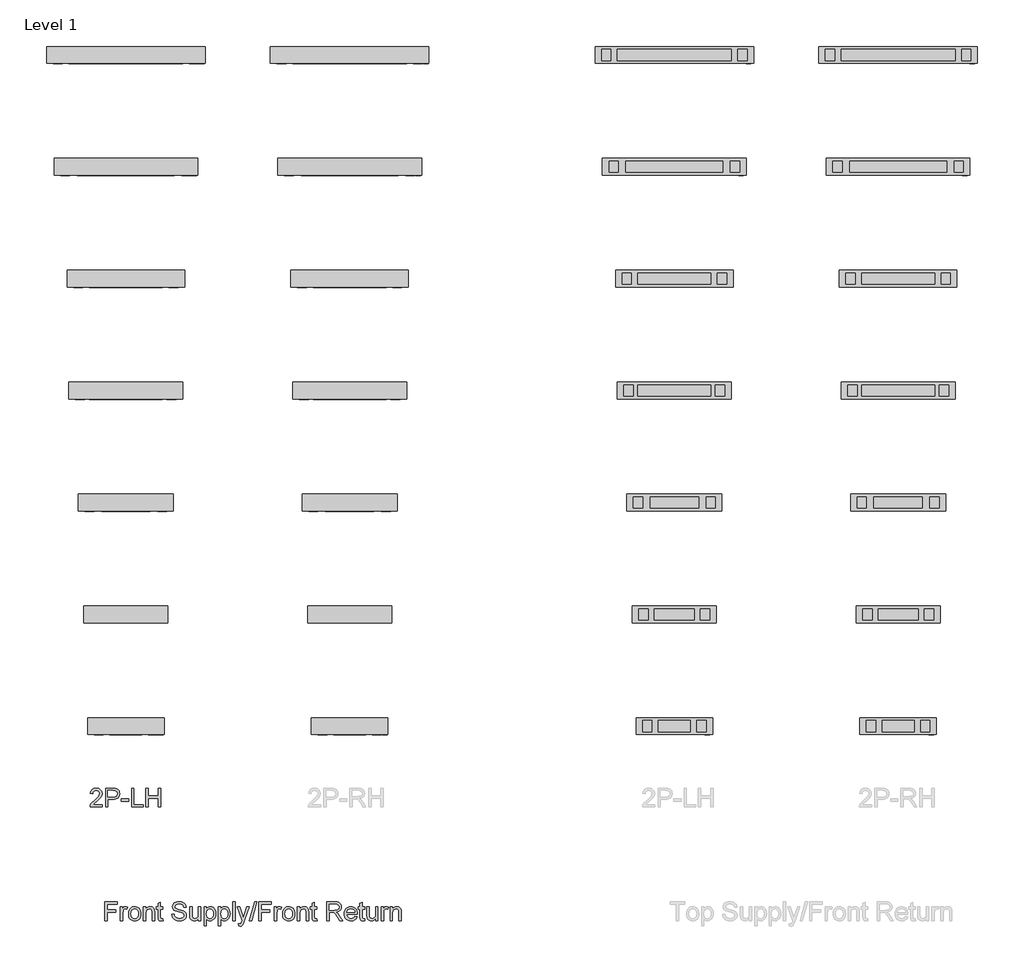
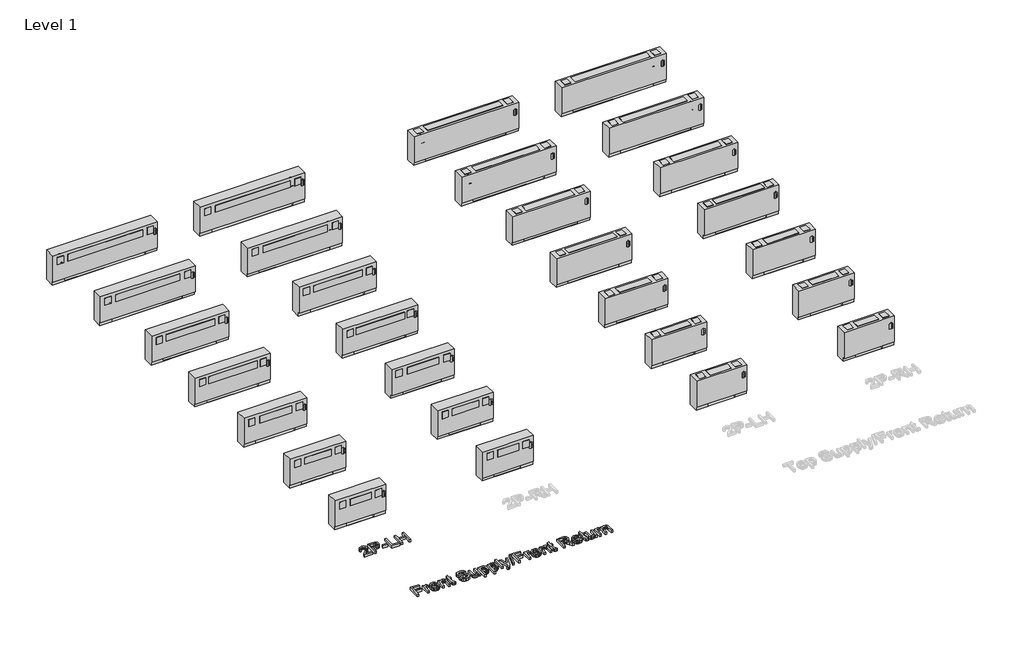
# One storey, part 1 of 2: 30 proxies.
"""IFC4 building model written with IfcOpenShell, lengths in millimetres."""

from ifc_helpers import new_model, si_unit, origin, origin_with_axes, place, context, project, spatial, polyline, outline, extrude, transform, mapped, element, save
from components import gxy_02_a3ff833b, gxy_02_ee521cdb, gxy_02_d8011f0c, gxy_02_15e2bdc2, gxy_03_f8413b3b, gxy_03_310a4355, gxy_03_8c3c5e44, gxy_03_0d3e7284, gxy_04_c9e6a3fd, gxy_04_255bc4dc, gxy_04_f155bc42, gxy_04_35a2ad64, gxy_06_de5f520c, gxy_06_4bfbfc61, gxy_06_0ddcebba, gxy_06_690fa94a, gxy_08_44ee7bc8, gxy_08_8e0e8857, gxy_08_aae87ed6, gxy_08_80e307a5, gxy_10_e6496b14, gxy_10_41770ce1, gxy_10_d176e5a6, gxy_10_b46815d9, gxy_12_1a190441, gxy_12_dbbb1e86, gxy_12_26e10efb, gxy_12_f87acff0

model = new_model("IFC4")

# Units and contexts
model_context = context("Model", 3, world=origin())
ifc_project = project(units=[si_unit("LENGTHUNIT", "METRE", prefix="MILLI")], contexts=[model_context])

# Site, building, storey
site = spatial("IfcSite", under=ifc_project)
building = spatial("IfcBuilding", under=site)
storey = spatial("IfcBuildingStorey", under=building, Name="Level 1", Elevation=0.0)

# Proxies
placement = place(None, origin())
element("IfcBuildingElementProxy", 1, Name="24\" Arial", ObjectType="24\" Arial", at=placement, inside=storey, context=model_context, shape_type="SweptSolid", body=[
    extrude(outline(polyline([(-19722.253563, -2284.938898), (-19722.253563, -2316.8337764), (-19889.701675, -2316.8337764), (-19886.2754673, -2294.8437528), (-19878.4107634, -2277.6582067), (-19866.9018205, -2260.9865918), (-19826.9709277, -2224.0146965), (-19792.5531145, -2193.4435801), (-19771.9024266, -2170.8773306), (-19761.5770826, -2152.5626934), (-19758.1353013, -2134.7464136), (-19761.3824117, -2118.7756138), (-19771.123743, -2105.4990592), (-19786.0978278, -2096.5519851), (-19805.0431987, -2093.5696271), (-19824.9385636, -2096.4819036), (-19840.3954322, -2105.2187331), (-19850.3703686, -2119.0948741), (-19853.8199367, -2137.425085), (-19885.7148152, -2133.4382252), (-19877.9824875, -2102.5867827), (-19861.2641515, -2080.0516806), (-19836.4319329, -2066.2689816), (-19804.3579572, -2061.6747487), (-19772.0503764, -2066.7829128), (-19747.2648788, -2082.1074052), (-19731.4965368, -2105.0007017), (-19726.2404228, -2132.8152784), (-19731.9092391, -2163.0593477), (-19750.7533812, -2194.3312793), (-19796.4465323, -2238.0310005), (-19833.1381014, -2268.7111326), (-19847.5281736, -2284.938898), (-19722.253563, -2284.938898)])), origin_with_axes(), (0.0, 0.0, 1.0), 50.8),
    extrude(outline(polyline([(-19678.3981051, -2316.8337764), (-19678.3981051, -2061.6747487), (-19583.834774, -2061.6747487), (-19545.7104271, -2064.1042414), (-19528.7117651, -2068.6439665), (-19514.7188215, -2076.0336734), (-19503.4512705, -2086.6081961), (-19494.6287858, -2100.7023685), (-19488.9288222, -2117.3272624), (-19487.0288343, -2135.4939498), (-19492.1603589, -2165.5667088), (-19507.5549328, -2190.6247456), (-19519.8834402, -2200.4906663), (-19536.3428639, -2207.5377525), (-19556.9332038, -2211.7660042), (-19581.6544601, -2213.1754214), (-19646.5032266, -2213.1754214), (-19646.5032266, -2316.8337764), (-19678.3981051, -2316.8337764)]), holes=[polyline([(-19646.5032266, -2181.2805429), (-19579.7856195, -2181.2805429), (-19551.5038327, -2178.3526928), (-19532.8154274, -2169.5691422), (-19522.3966414, -2155.4749699), (-19518.9237127, -2136.6152541), (-19520.9716505, -2122.2874767), (-19527.1154638, -2110.2023079), (-19536.5920426, -2101.107284), (-19548.6382773, -2095.7499411), (-19580.5331557, -2093.5696271), (-19646.5032266, -2093.5696271), (-19646.5032266, -2181.2805429)])]), origin_with_axes(), (0.0, 0.0, 1.0), 50.8),
    extrude(outline(polyline([(-19463.1076754, -2241.0834401), (-19463.1076754, -2209.1885616), (-19363.4361802, -2209.1885616), (-19363.4361802, -2241.0834401), (-19463.1076754, -2241.0834401)])), origin_with_axes(), (0.0, 0.0, 1.0), 50.8),
    extrude(outline(polyline([(-19323.5675821, -2316.8337764), (-19323.5675821, -2061.6747487), (-19291.6727036, -2061.6747487), (-19291.6727036, -2284.938898), (-19164.0931897, -2284.938898), (-19164.0931897, -2316.8337764), (-19323.5675821, -2316.8337764)])), origin_with_axes(), (0.0, 0.0, 1.0), 50.8),
    extrude(outline(polyline([(-19128.2114515, -2316.8337764), (-19128.2114515, -2061.6747487), (-19096.316573, -2061.6747487), (-19096.316573, -2165.3331037), (-18960.7633395, -2165.3331037), (-18960.7633395, -2061.6747487), (-18928.868461, -2061.6747487), (-18928.868461, -2316.8337764), (-18960.7633395, -2316.8337764), (-18960.7633395, -2197.2279822), (-19096.316573, -2197.2279822), (-19096.316573, -2316.8337764), (-19128.2114515, -2316.8337764)])), origin_with_axes(), (0.0, 0.0, 1.0), 50.8),
])
element("IfcBuildingElementProxy", 2, Name="24\" Arial", ObjectType="24\" Arial", at=placement, inside=storey, context=model_context, shape_type="SweptSolid", body=[
    extrude(outline(polyline([(-19688.2981561, -3865.3936295), (-19688.2981561, -3610.2346017), (-19516.8631843, -3610.2346017), (-19516.8631843, -3642.1294801), (-19656.4032777, -3642.1294801), (-19656.4032777, -3717.8798165), (-19536.7974834, -3717.8798165), (-19536.7974834, -3749.774695), (-19656.4032777, -3749.774695), (-19656.4032777, -3865.3936295), (-19688.2981561, -3865.3936295)])), origin_with_axes(), (0.0, 0.0, 1.0), 50.8),
    extrude(outline(polyline([(-19476.9945863, -3865.3936295), (-19476.9945863, -3678.0112184), (-19449.0865676, -3678.0112184), (-19449.0865676, -3705.732353), (-19438.7767973, -3689.6603244), (-19429.2768579, -3680.1915324), (-19419.7457712, -3675.5661521), (-19409.3425589, -3674.0243586), (-19393.4574143, -3676.4849987), (-19377.323091, -3683.8669188), (-19387.9754821, -3712.460179), (-19410.4015685, -3705.9192371), (-19419.9248684, -3707.4921779), (-19428.4358797, -3712.2110002), (-19435.3116555, -3719.7175097), (-19439.929249, -3729.6535119), (-19445.0997078, -3766.9057332), (-19445.0997078, -3865.3936295), (-19476.9945863, -3865.3936295)])), origin_with_axes(), (0.0, 0.0, 1.0), 50.8),
    extrude(outline(polyline([(-19365.3625116, -3771.7024239), (-19363.6377275, -3747.4347509), (-19358.4633753, -3726.523204), (-19349.8394549, -3708.9677832), (-19337.7659664, -3694.7684886), (-19312.1939984, -3679.2103911), (-19281.5761609, -3674.0243586), (-19263.9798593, -3675.6031395), (-19248.0694075, -3680.3394823), (-19233.8448056, -3688.2333868), (-19221.3060537, -3699.2848532), (-19211.072205, -3713.1201133), (-19203.7623131, -3729.365399), (-19199.376378, -3748.0207103), (-19197.9143996, -3769.0860472), (-19200.499629, -3801.3079728), (-19208.2553172, -3825.8365048), (-19220.9556461, -3844.2056499), (-19238.3747972, -3857.9494147), (-19259.0644193, -3866.5227206), (-19281.5761609, -3869.3804893), (-19299.4294282, -3867.8075485), (-19315.4878298, -3863.0887261), (-19329.7513659, -3855.2240222), (-19342.2200363, -3844.2134367), (-19352.3448692, -3830.2438537), (-19359.5768928, -3813.5021573), (-19363.9161069, -3793.9883473), (-19365.3625116, -3771.7024239)]), holes=[polyline([(-19333.4676331, -3771.6401293), (-19329.7766731, -3800.5059287), (-19318.7037929, -3821.0709614), (-19302.0399648, -3833.3819484), (-19281.5761609, -3837.4856108), (-19261.2057991, -3833.3585879), (-19244.5731183, -3820.9775194), (-19233.5002381, -3800.1399474), (-19229.8092781, -3770.6434143), (-19233.5235987, -3742.6185931), (-19244.6665603, -3722.3338865), (-19261.3226016, -3710.0228994), (-19281.5761609, -3705.9192371), (-19302.0399648, -3710.0073258), (-19318.7037929, -3722.2715918), (-19329.7766731, -3742.7899035), (-19333.4676331, -3771.6401293)])]), origin_with_axes(), (0.0, 0.0, 1.0), 50.8),
    extrude(outline(polyline([(-19162.0326613, -3865.3936295), (-19162.0326613, -3678.0112184), (-19130.1377829, -3678.0112184), (-19130.1377829, -3704.1749859), (-19119.0571159, -3690.9840865), (-19105.7494139, -3681.5620154), (-19090.2146769, -3675.9087728), (-19072.452905, -3674.0243586), (-19056.731284, -3675.5427916), (-19042.333425, -3680.0980904), (-19030.3261246, -3687.121816), (-19021.7761791, -3696.0455296), (-19012.2139451, -3719.4994783), (-19010.5319886, -3750.3353472), (-19010.5319886, -3865.3936295), (-19042.4268671, -3865.3936295), (-19042.4268671, -3754.6336804), (-19046.1022535, -3726.4141883), (-19051.1870571, -3718.0121927), (-19059.0906952, -3711.4946114), (-19080.9872768, -3705.9192371), (-19099.6678953, -3709.049545), (-19115.591974, -3718.4404687), (-19126.5013307, -3736.5837955), (-19130.1377829, -3765.971313), (-19130.1377829, -3865.3936295), (-19162.0326613, -3865.3936295)])), origin_with_axes(), (0.0, 0.0, 1.0), 50.8),
    extrude(outline(polyline([(-18898.8999139, -3838.7937992), (-18894.9130541, -3866.3280497), (-18918.7719183, -3869.3804893), (-18934.080837, -3868.0567272), (-18945.496338, -3864.0854411), (-18958.8274004, -3850.1937264), (-18962.6896709, -3814.0005147), (-18962.6896709, -3709.9060969), (-18986.6108297, -3709.9060969), (-18986.6108297, -3678.0112184), (-18962.6896709, -3678.0112184), (-18962.6896709, -3632.473804), (-18930.7947924, -3613.723104), (-18930.7947924, -3678.0112184), (-18898.8999139, -3678.0112184), (-18898.8999139, -3709.9060969), (-18930.7947924, -3709.9060969), (-18930.7947924, -3813.0660945), (-18929.1128359, -3829.5118912), (-18923.662051, -3835.3364442), (-18912.7916286, -3837.4856108), (-18898.8999139, -3838.7937992)])), origin_with_axes(), (0.0, 0.0, 1.0), 50.8),
    extrude(outline(polyline([(-18775.3072599, -3777.6827137), (-18743.4123814, -3777.6827137), (-18739.7525687, -3795.3821909), (-18733.1337584, -3809.6087395), (-18722.8084145, -3820.899651), (-18708.0290006, -3829.7922173), (-18689.9635421, -3835.5622624), (-18669.7800643, -3837.4856108), (-18652.0105055, -3836.0294725), (-18636.4524081, -3831.6610578), (-18623.8455213, -3824.7463478), (-18614.9295946, -3815.6513239), (-18609.6267595, -3805.2091774), (-18607.8591479, -3794.2530997), (-18613.1541961, -3774.349948), (-18621.2213577, -3766.4774573), (-18634.8327463, -3759.8664339), (-18681.2734336, -3747.6878231), (-18731.2649179, -3731.9584152), (-18747.1422756, -3721.2281558), (-18758.394253, -3708.2241404), (-18765.0987184, -3693.2266951), (-18767.3335402, -3676.516146), (-18764.5692136, -3657.8355275), (-18756.2762337, -3640.4163763), (-18742.672632, -3625.6525361), (-18723.9764398, -3614.9378504), (-18701.5347797, -3608.420269), (-18676.6947743, -3606.2477419), (-18649.7834706, -3608.5214978), (-18626.2360798, -3615.3427658), (-18606.8935803, -3626.5713827), (-18592.5969502, -3642.0671855), (-18583.5486472, -3660.8646065), (-18579.9511292, -3681.9980782), (-18611.8460077, -3681.9980782), (-18617.701708, -3662.9670521), (-18629.9114662, -3649.2310742), (-18648.9892133, -3640.9147338), (-18675.4488806, -3638.1426203), (-18702.5314947, -3640.8835865), (-18721.1108843, -3649.1064848), (-18731.8567174, -3661.2072273), (-18735.4386618, -3675.5817257), (-18732.9001534, -3687.8382049), (-18725.2846282, -3697.6963387), (-18707.2814644, -3706.5110366), (-18673.2062719, -3715.5126185), (-18616.7672878, -3731.5223524), (-18598.5850267, -3743.0935901), (-18585.9002716, -3757.3746465), (-18578.4482699, -3774.209785), (-18575.9642694, -3793.4432688), (-18578.8220381, -3813.1050286), (-18587.395344, -3831.5987631), (-18601.3337797, -3847.515055), (-18620.2869374, -3859.4444871), (-18643.0790051, -3866.8964887), (-18668.5341706, -3869.3804893), (-18699.7827417, -3866.7018178), (-18725.5026596, -3858.6658035), (-18745.989824, -3845.241299), (-18761.5401346, -3826.3971569), (-18771.5228578, -3803.4415657), (-18775.3072599, -3777.6827137)])), origin_with_axes(), (0.0, 0.0, 1.0), 50.8),
    extrude(outline(polyline([(-18412.5030172, -3865.3936295), (-18412.5030172, -3833.1872776), (-18424.0431075, -3849.0218077), (-18437.4831857, -3860.3321863), (-18452.8232518, -3867.1184135), (-18470.0633057, -3869.3804893), (-18485.5980427, -3867.7919748), (-18500.0581963, -3863.0264314), (-18512.1900861, -3855.8625427), (-18520.7400316, -3847.0789922), (-18530.239971, -3823.5938961), (-18532.1088115, -3793.9416263), (-18532.1088115, -3678.0112184), (-18500.213933, -3678.0112184), (-18500.213933, -3778.9286073), (-18498.2827978, -3811.4464327), (-18493.634057, -3822.2934946), (-18485.6681242, -3830.5397535), (-18474.9145043, -3835.7491465), (-18461.9027021, -3837.4856108), (-18448.1433636, -3835.7102123), (-18435.2717244, -3830.3840168), (-18424.6582675, -3821.9975949), (-18417.673476, -3811.0415172), (-18413.7956319, -3796.0362851), (-18412.5030172, -3775.5023997), (-18412.5030172, -3678.0112184), (-18380.6081388, -3678.0112184), (-18380.6081388, -3865.3936295), (-18412.5030172, -3865.3936295)])), origin_with_axes(), (0.0, 0.0, 1.0), 50.8),
    extrude(outline(polyline([(-18336.7526809, -3937.157106), (-18336.7526809, -3678.0112184), (-18304.8578024, -3678.0112184), (-18304.8578024, -3709.2831501), (-18294.4545901, -3693.8574288), (-18282.8054841, -3682.8390565), (-18269.2252428, -3676.2280331), (-18253.0286249, -3674.0243586), (-18231.4590904, -3677.1079455), (-18212.5993746, -3686.3587062), (-18197.2437349, -3701.2159884), (-18186.1864284, -3721.1191401), (-18179.5053235, -3744.6198098), (-18177.2782885, -3770.2696462), (-18179.7934364, -3797.5469312), (-18187.33888, -3821.943087), (-18199.6732276, -3842.2200068), (-18216.5550871, -3857.1395838), (-18236.2168469, -3866.3202629), (-18256.8908953, -3869.3804893), (-18271.5535067, -3867.3325515), (-18284.6431773, -3861.1887382), (-18304.8578024, -3840.4757556), (-18304.8578024, -3937.157106), (-18336.7526809, -3937.157106)]), holes=[polyline([(-18304.8578024, -3773.1974964), (-18301.4082342, -3801.7907566), (-18291.0595298, -3821.7873503), (-18275.7895452, -3833.5610457), (-18257.5761368, -3837.4856108), (-18239.0668287, -3833.4208826), (-18223.4075024, -3821.2266981), (-18212.7317508, -3800.4981419), (-18209.173167, -3770.8302984), (-18212.6460956, -3742.3927749), (-18223.0648816, -3722.1158551), (-18238.3115057, -3709.9683916), (-18256.2679485, -3705.9192371), (-18274.2944728, -3710.2253572), (-18290.1251095, -3723.1437174), (-18301.1746292, -3744.2694022), (-18304.8578024, -3773.1974964)])]), origin_with_axes(), (0.0, 0.0, 1.0), 50.8),
    extrude(outline(polyline([(-18141.3965502, -3937.157106), (-18141.3965502, -3678.0112184), (-18109.5016717, -3678.0112184), (-18109.5016717, -3709.2831501), (-18099.0984594, -3693.8574288), (-18087.4493534, -3682.8390565), (-18073.8691122, -3676.2280331), (-18057.6724942, -3674.0243586), (-18036.1029597, -3677.1079455), (-18017.243244, -3686.3587062), (-18001.8876042, -3701.2159884), (-17990.8302977, -3721.1191401), (-17984.1491928, -3744.6198098), (-17981.9221579, -3770.2696462), (-17984.4373057, -3797.5469312), (-17991.9827494, -3821.943087), (-18004.3170969, -3842.2200068), (-18021.1989564, -3857.1395838), (-18040.8607162, -3866.3202629), (-18061.5347647, -3869.3804893), (-18076.197376, -3867.3325515), (-18089.2870466, -3861.1887382), (-18109.5016717, -3840.4757556), (-18109.5016717, -3937.157106), (-18141.3965502, -3937.157106)]), holes=[polyline([(-18109.5016717, -3773.1974964), (-18106.0521036, -3801.7907566), (-18095.7033991, -3821.7873503), (-18080.4334146, -3833.5610457), (-18062.2200062, -3837.4856108), (-18043.7106981, -3833.4208826), (-18028.0513717, -3821.2266981), (-18017.3756202, -3800.4981419), (-18013.8170363, -3770.8302984), (-18017.289965, -3742.3927749), (-18027.708751, -3722.1158551), (-18042.955375, -3709.9683916), (-18060.9118178, -3705.9192371), (-18078.9383422, -3710.2253572), (-18094.7689789, -3723.1437174), (-18105.8184985, -3744.2694022), (-18109.5016717, -3773.1974964)])]), origin_with_axes(), (0.0, 0.0, 1.0), 50.8),
    extrude(outline(polyline([(-17946.0404196, -3865.3936295), (-17946.0404196, -3610.2346017), (-17914.1455411, -3610.2346017), (-17914.1455411, -3865.3936295), (-17946.0404196, -3865.3936295)])), origin_with_axes(), (0.0, 0.0, 1.0), 50.8),
    extrude(outline(polyline([(-17866.3032234, -3937.157106), (-17870.2900832, -3906.4458265), (-17854.0934652, -3909.2490874), (-17838.9558569, -3905.7294377), (-17829.6739489, -3895.9180249), (-17820.9526931, -3872.4329288), (-17818.4609057, -3864.7083879), (-17886.2375224, -3678.0112184), (-17852.5983928, -3678.0112184), (-17816.6543598, -3782.0433416), (-17804.1331282, -3823.6561908), (-17791.6118967, -3786.902327), (-17754.6711487, -3678.0112184), (-17721.2811978, -3678.0112184), (-17786.5037325, -3869.8788467), (-17803.4478867, -3911.491696), (-17812.1224215, -3924.7760375), (-17821.949408, -3933.9800771), (-17833.364909, -3939.3529936), (-17846.8049871, -3941.1439658), (-17866.3032234, -3937.157106)])), origin_with_axes(), (0.0, 0.0, 1.0), 50.8),
    extrude(outline(polyline([(-17718.7894105, -3865.3936295), (-17647.0259339, -3610.2346017), (-17618.2457896, -3610.2346017), (-17690.0092662, -3865.3936295), (-17718.7894105, -3865.3936295)])), origin_with_axes(), (0.0, 0.0, 1.0), 50.8),
    extrude(outline(polyline([(-17591.2098966, -3865.3936295), (-17591.2098966, -3610.2346017), (-17419.7749248, -3610.2346017), (-17419.7749248, -3642.1294801), (-17559.3150181, -3642.1294801), (-17559.3150181, -3717.8798165), (-17439.7092238, -3717.8798165), (-17439.7092238, -3749.774695), (-17559.3150181, -3749.774695), (-17559.3150181, -3865.3936295), (-17591.2098966, -3865.3936295)])), origin_with_axes(), (0.0, 0.0, 1.0), 50.8),
    extrude(outline(polyline([(-17379.9063267, -3865.3936295), (-17379.9063267, -3678.0112184), (-17351.998308, -3678.0112184), (-17351.998308, -3705.732353), (-17341.6885377, -3689.6603244), (-17332.1885983, -3680.1915324), (-17322.6575116, -3675.5661521), (-17312.2542993, -3674.0243586), (-17296.3691547, -3676.4849987), (-17280.2348315, -3683.8669188), (-17290.8872225, -3712.460179), (-17313.3133089, -3705.9192371), (-17322.8366088, -3707.4921779), (-17331.3476201, -3712.2110002), (-17338.2233959, -3719.7175097), (-17342.8409894, -3729.6535119), (-17348.0114482, -3766.9057332), (-17348.0114482, -3865.3936295), (-17379.9063267, -3865.3936295)])), origin_with_axes(), (0.0, 0.0, 1.0), 50.8),
    extrude(outline(polyline([(-17268.274252, -3771.7024239), (-17266.549468, -3747.4347509), (-17261.3751157, -3726.523204), (-17252.7511953, -3708.9677832), (-17240.6777068, -3694.7684886), (-17215.1057388, -3679.2103911), (-17184.4879014, -3674.0243586), (-17166.8915997, -3675.6031395), (-17150.9811479, -3680.3394823), (-17136.7565461, -3688.2333868), (-17124.2177941, -3699.2848532), (-17113.9839454, -3713.1201133), (-17106.6740536, -3729.365399), (-17102.2881184, -3748.0207103), (-17100.8261401, -3769.0860472), (-17103.4113695, -3801.3079728), (-17111.1670577, -3825.8365048), (-17123.8673865, -3844.2056499), (-17141.2865376, -3857.9494147), (-17161.9761597, -3866.5227206), (-17184.4879014, -3869.3804893), (-17202.3411686, -3867.8075485), (-17218.3995702, -3863.0887261), (-17232.6631063, -3855.2240222), (-17245.1317767, -3844.2134367), (-17255.2566097, -3830.2438537), (-17262.4886332, -3813.5021573), (-17266.8278473, -3793.9883473), (-17268.274252, -3771.7024239)]), holes=[polyline([(-17236.3793736, -3771.6401293), (-17232.6884135, -3800.5059287), (-17221.6155333, -3821.0709614), (-17204.9517052, -3833.3819484), (-17184.4879014, -3837.4856108), (-17164.1175395, -3833.3585879), (-17147.4848588, -3820.9775194), (-17136.4119786, -3800.1399474), (-17132.7210185, -3770.6434143), (-17136.4353391, -3742.6185931), (-17147.5783008, -3722.3338865), (-17164.2343421, -3710.0228994), (-17184.4879014, -3705.9192371), (-17204.9517052, -3710.0073258), (-17221.6155333, -3722.2715918), (-17232.6884135, -3742.7899035), (-17236.3793736, -3771.6401293)])]), origin_with_axes(), (0.0, 0.0, 1.0), 50.8),
    extrude(outline(polyline([(-17064.9444018, -3865.3936295), (-17064.9444018, -3678.0112184), (-17033.0495233, -3678.0112184), (-17033.0495233, -3704.1749859), (-17021.9688563, -3690.9840865), (-17008.6611543, -3681.5620154), (-16993.1264174, -3675.9087728), (-16975.3646454, -3674.0243586), (-16959.6430244, -3675.5427916), (-16945.2451655, -3680.0980904), (-16933.237865, -3687.121816), (-16924.6879196, -3696.0455296), (-16915.1256855, -3719.4994783), (-16913.443729, -3750.3353472), (-16913.443729, -3865.3936295), (-16945.3386075, -3865.3936295), (-16945.3386075, -3754.6336804), (-16949.0139939, -3726.4141883), (-16954.0987975, -3718.0121927), (-16962.0024356, -3711.4946114), (-16983.8990172, -3705.9192371), (-17002.5796357, -3709.049545), (-17018.5037145, -3718.4404687), (-17029.4130711, -3736.5837955), (-17033.0495233, -3765.971313), (-17033.0495233, -3865.3936295), (-17064.9444018, -3865.3936295)])), origin_with_axes(), (0.0, 0.0, 1.0), 50.8),
    extrude(outline(polyline([(-16801.8116544, -3838.7937992), (-16797.8247946, -3866.3280497), (-16821.6836587, -3869.3804893), (-16836.9925775, -3868.0567272), (-16848.4080784, -3864.0854411), (-16861.7391409, -3850.1937264), (-16865.6014113, -3814.0005147), (-16865.6014113, -3709.9060969), (-16889.5225702, -3709.9060969), (-16889.5225702, -3678.0112184), (-16865.6014113, -3678.0112184), (-16865.6014113, -3632.473804), (-16833.7065328, -3613.723104), (-16833.7065328, -3678.0112184), (-16801.8116544, -3678.0112184), (-16801.8116544, -3709.9060969), (-16833.7065328, -3709.9060969), (-16833.7065328, -3813.0660945), (-16832.0245764, -3829.5118912), (-16826.5737915, -3835.3364442), (-16815.703369, -3837.4856108), (-16801.8116544, -3838.7937992)])), origin_with_axes(), (0.0, 0.0, 1.0), 50.8),
    extrude(outline(polyline([(-16666.2584209, -3865.3936295), (-16666.2584209, -3610.2346017), (-16556.3083027, -3610.2346017), (-16526.7572617, -3611.9554923), (-16505.2578087, -3617.1181643), (-16489.5439746, -3626.649251), (-16477.3497901, -3641.475386), (-16469.5240203, -3659.8601047), (-16466.9154304, -3680.066943), (-16471.2371241, -3705.2028482), (-16484.2022054, -3726.0404202), (-16506.2000158, -3741.3181916), (-16537.6198973, -3749.774695), (-16519.4921441, -3763.4172309), (-16493.6398501, -3796.2465296), (-16451.0925805, -3865.3936295), (-16488.1579178, -3865.3936295), (-16521.3609847, -3812.5054423), (-16545.3444382, -3777.4958296), (-16562.1951504, -3760.9565909), (-16577.3639061, -3754.8828591), (-16595.8654274, -3753.7615548), (-16634.3635424, -3753.7615548), (-16634.3635424, -3865.3936295), (-16666.2584209, -3865.3936295)]), holes=[polyline([(-16634.3635424, -3721.8666763), (-16562.9738339, -3721.8666763), (-16526.5625908, -3717.3503117), (-16514.5864377, -3711.4790377), (-16505.8807556, -3702.8979449), (-16500.5779206, -3692.5180931), (-16498.8103089, -3681.250542), (-16502.1820087, -3665.6924446), (-16512.2971081, -3653.1556393), (-16529.7006856, -3644.8860199), (-16554.9378196, -3642.1294801), (-16634.3635424, -3642.1294801), (-16634.3635424, -3721.8666763)])]), origin_with_axes(), (0.0, 0.0, 1.0), 50.8),
    extrude(outline(polyline([(-16283.8936473, -3809.5775921), (-16252.6217157, -3813.5644519), (-16263.8892667, -3837.1274164), (-16281.8690701, -3854.7412384), (-16306.1562102, -3865.7206765), (-16336.3457717, -3869.3804893), (-16356.1360143, -3867.8017084), (-16373.7693034, -3863.0653656), (-16389.2456391, -3855.1714611), (-16402.5650213, -3844.1199947), (-16413.2758136, -3830.2185465), (-16420.9263796, -3813.7746965), (-16425.5167191, -3794.7884447), (-16427.0468323, -3773.2597911), (-16425.5011455, -3751.0011216), (-16420.8640849, -3731.3821894), (-16413.1356506, -3714.4029944), (-16402.3158426, -3700.0635367), (-16389.0315011, -3688.6713963), (-16373.9094664, -3680.5341532), (-16356.9497386, -3675.6518073), (-16338.1523175, -3674.0243586), (-16319.9603229, -3675.6479138), (-16303.5086861, -3680.5185795), (-16288.797407, -3688.6363556), (-16275.8264857, -3700.0012421), (-16265.238336, -3714.3095524), (-16257.675372, -3731.2576), (-16253.1375935, -3750.8453849), (-16251.6250007, -3773.072907), (-16251.8118848, -3781.6695735), (-16395.1519538, -3781.6695735), (-16389.6310874, -3805.5440113), (-16376.8061693, -3823.0955387), (-16358.2968611, -3833.8880928), (-16335.7228248, -3837.4856108), (-16318.7475233, -3835.819228), (-16304.4508932, -3830.8200795), (-16292.8329345, -3822.1766921), (-16283.8936473, -3809.5775921)]), holes=[polyline([(-16395.1519538, -3749.774695), (-16283.5198792, -3749.774695), (-16287.8337861, -3732.9239828), (-16296.2902895, -3720.8699614), (-16314.8852528, -3709.6569182), (-16338.2769069, -3705.9192371), (-16359.7763599, -3708.9015951), (-16377.5537055, -3717.8486692), (-16389.9114135, -3731.7948917), (-16395.1519538, -3749.774695)])]), origin_with_axes(), (0.0, 0.0, 1.0), 50.8),
    extrude(outline(polyline([(-16151.9535055, -3838.7937992), (-16147.9666457, -3866.3280497), (-16171.8255099, -3869.3804893), (-16187.1344286, -3868.0567272), (-16198.5499295, -3864.0854411), (-16211.880992, -3850.1937264), (-16215.7432624, -3814.0005147), (-16215.7432624, -3709.9060969), (-16239.6644213, -3709.9060969), (-16239.6644213, -3678.0112184), (-16215.7432624, -3678.0112184), (-16215.7432624, -3632.473804), (-16183.848384, -3613.723104), (-16183.848384, -3678.0112184), (-16151.9535055, -3678.0112184), (-16151.9535055, -3709.9060969), (-16183.848384, -3709.9060969), (-16183.848384, -3813.0660945), (-16182.1664275, -3829.5118912), (-16176.7156426, -3835.3364442), (-16165.8452201, -3837.4856108), (-16151.9535055, -3838.7937992)])), origin_with_axes(), (0.0, 0.0, 1.0), 50.8),
    extrude(outline(polyline([(-16000.4528327, -3865.3936295), (-16000.4528327, -3833.1872776), (-16011.9929231, -3849.0218077), (-16025.4330012, -3860.3321863), (-16040.7730673, -3867.1184135), (-16058.0131212, -3869.3804893), (-16073.5478582, -3867.7919748), (-16088.0080118, -3863.0264314), (-16100.1399016, -3855.8625427), (-16108.6898471, -3847.0789922), (-16118.1897865, -3823.5938961), (-16120.058627, -3793.9416263), (-16120.058627, -3678.0112184), (-16088.1637485, -3678.0112184), (-16088.1637485, -3778.9286073), (-16086.2326133, -3811.4464327), (-16081.5838725, -3822.2934946), (-16073.6179397, -3830.5397535), (-16062.8643198, -3835.7491465), (-16049.8525176, -3837.4856108), (-16036.0931791, -3835.7102123), (-16023.2215399, -3830.3840168), (-16012.6080831, -3821.9975949), (-16005.6232916, -3811.0415172), (-16001.7454475, -3796.0362851), (-16000.4528327, -3775.5023997), (-16000.4528327, -3678.0112184), (-15968.5579543, -3678.0112184), (-15968.5579543, -3865.3936295), (-16000.4528327, -3865.3936295)])), origin_with_axes(), (0.0, 0.0, 1.0), 50.8),
    extrude(outline(polyline([(-15924.7024964, -3865.3936295), (-15924.7024964, -3678.0112184), (-15896.7944777, -3678.0112184), (-15896.7944777, -3705.732353), (-15886.4847074, -3689.6603244), (-15876.984768, -3680.1915324), (-15867.4536813, -3675.5661521), (-15857.050469, -3674.0243586), (-15841.1653244, -3676.4849987), (-15825.0310012, -3683.8669188), (-15835.6833922, -3712.460179), (-15858.1094786, -3705.9192371), (-15867.6327785, -3707.4921779), (-15876.1437898, -3712.2110002), (-15883.0195656, -3719.7175097), (-15887.6371591, -3729.6535119), (-15892.8076179, -3766.9057332), (-15892.8076179, -3865.3936295), (-15924.7024964, -3865.3936295)])), origin_with_axes(), (0.0, 0.0, 1.0), 50.8),
    extrude(outline(polyline([(-15805.0967021, -3865.3936295), (-15805.0967021, -3678.0112184), (-15773.2018236, -3678.0112184), (-15773.2018236, -3704.1749859), (-15762.1211566, -3690.9840865), (-15748.8134546, -3681.5620154), (-15733.2787177, -3675.9087728), (-15715.5169458, -3674.0243586), (-15699.7953248, -3675.5427916), (-15685.3974658, -3680.0980904), (-15673.3901654, -3687.121816), (-15664.8402199, -3696.0455296), (-15655.2779858, -3719.4994783), (-15653.5960294, -3750.3353472), (-15653.5960294, -3865.3936295), (-15685.4909078, -3865.3936295), (-15685.4909078, -3754.6336804), (-15689.1662942, -3726.4141883), (-15694.2510978, -3718.0121927), (-15702.1547359, -3711.4946114), (-15724.0513175, -3705.9192371), (-15742.7319361, -3709.049545), (-15758.6560148, -3718.4404687), (-15769.5653714, -3736.5837955), (-15773.2018236, -3765.971313), (-15773.2018236, -3865.3936295), (-15805.0967021, -3865.3936295)])), origin_with_axes(), (0.0, 0.0, 1.0), 50.8),
])
gxy_02_shape = gxy_02_a3ff833b(model_context)
element("IfcBuildingElementProxy", 3, Name="Vertical_Fan_Coil_Unit_-_GXY_-_IEC_-_2-Pipe_FS-FR_LH_2022 : GXY 02", ObjectType="Vertical_Fan_Coil_Unit_-_GXY_-_IEC_-_2-Pipe_FS-FR_LH_2022 : GXY 02", at=placement, inside=storey, context=model_context, shape_type="MappedRepresentation", body=[
    mapped(gxy_02_shape, transform((-19554.2915851, -1346.7031597, 0.0), x_axis=(1.0, 0.0, 0.0), y_axis=(0.0, 1.0, 0.0), z_axis=(0.0, 0.0, 1.0))),
])
gxy_02_2_shape = gxy_02_ee521cdb(model_context)
element("IfcBuildingElementProxy", 4, Name="Vertical_Fan_Coil_Unit_-_GXY_-_IEC_-_2-Pipe_FS-FR_RH_2022 : GXY 02", ObjectType="Vertical_Fan_Coil_Unit_-_GXY_-_IEC_-_2-Pipe_FS-FR_RH_2022 : GXY 02", at=placement, inside=storey, context=model_context, shape_type="MappedRepresentation", body=[
    mapped(gxy_02_2_shape, transform((-16506.2915851, -1346.7031597, 0.0), x_axis=(1.0, 0.0, 0.0), y_axis=(0.0, 1.0, 0.0), z_axis=(0.0, 0.0, 1.0))),
])
gxy_02_3_shape = gxy_02_d8011f0c(model_context)
element("IfcBuildingElementProxy", 5, Name="Vertical_Fan_Coil_Unit_-_GXY_-_IEC_-_2-Pipe_TS-FR_LH_2022 : GXY 02", ObjectType="Vertical_Fan_Coil_Unit_-_GXY_-_IEC_-_2-Pipe_TS-FR_LH_2022 : GXY 02", at=placement, inside=storey, context=model_context, shape_type="MappedRepresentation", body=[
    mapped(gxy_02_3_shape, transform((-12086.6915851, -1346.7031597, 0.0), x_axis=(1.0, 0.0, 0.0), y_axis=(0.0, 1.0, 0.0), z_axis=(0.0, 0.0, 1.0))),
])
gxy_02_4_shape = gxy_02_15e2bdc2(model_context)
element("IfcBuildingElementProxy", 6, Name="Vertical_Fan_Coil_Unit_-_GXY_-_IEC_-_2-Pipe_TS-FR_RH_2022 : GXY 02", ObjectType="Vertical_Fan_Coil_Unit_-_GXY_-_IEC_-_2-Pipe_TS-FR_RH_2022 : GXY 02", at=placement, inside=storey, context=model_context, shape_type="MappedRepresentation", body=[
    mapped(gxy_02_4_shape, transform((-9038.6915851, -1346.7031597, 0.0), x_axis=(1.0, 0.0, 0.0), y_axis=(0.0, 1.0, 0.0), z_axis=(0.0, 0.0, 1.0))),
])
gxy_03_shape = gxy_03_f8413b3b(model_context)
element("IfcBuildingElementProxy", 7, Name="Vertical_Fan_Coil_Unit_-_GXY_-_IEC_-_2-Pipe_FS-FR_LH_2022 : GXY 03", ObjectType="Vertical_Fan_Coil_Unit_-_GXY_-_IEC_-_2-Pipe_FS-FR_LH_2022 : GXY 03", at=placement, inside=storey, context=model_context, shape_type="MappedRepresentation", body=[
    mapped(gxy_03_shape, transform((-19554.2915851, 177.2968403, 0.0), x_axis=(1.0, 0.0, 0.0), y_axis=(0.0, 1.0, 0.0), z_axis=(0.0, 0.0, 1.0))),
])
gxy_03_2_shape = gxy_03_310a4355(model_context)
element("IfcBuildingElementProxy", 8, Name="Vertical_Fan_Coil_Unit_-_GXY_-_IEC_-_2-Pipe_FS-FR_RH_2022 : GXY 03", ObjectType="Vertical_Fan_Coil_Unit_-_GXY_-_IEC_-_2-Pipe_FS-FR_RH_2022 : GXY 03", at=placement, inside=storey, context=model_context, shape_type="MappedRepresentation", body=[
    mapped(gxy_03_2_shape, transform((-16506.2915851, 177.2968403, 0.0), x_axis=(1.0, 0.0, 0.0), y_axis=(0.0, 1.0, 0.0), z_axis=(0.0, 0.0, 1.0))),
])
gxy_03_3_shape = gxy_03_8c3c5e44(model_context)
element("IfcBuildingElementProxy", 9, Name="Vertical_Fan_Coil_Unit_-_GXY_-_IEC_-_2-Pipe_TS-FR_LH_2022 : GXY 03", ObjectType="Vertical_Fan_Coil_Unit_-_GXY_-_IEC_-_2-Pipe_TS-FR_LH_2022 : GXY 03", at=placement, inside=storey, context=model_context, shape_type="MappedRepresentation", body=[
    mapped(gxy_03_3_shape, transform((-12086.6915851, 177.2968403, 0.0), x_axis=(1.0, 0.0, 0.0), y_axis=(0.0, 1.0, 0.0), z_axis=(0.0, 0.0, 1.0))),
])
gxy_03_4_shape = gxy_03_0d3e7284(model_context)
element("IfcBuildingElementProxy", 10, Name="Vertical_Fan_Coil_Unit_-_GXY_-_IEC_-_2-Pipe_TS-FR_RH_2022 : GXY 03", ObjectType="Vertical_Fan_Coil_Unit_-_GXY_-_IEC_-_2-Pipe_TS-FR_RH_2022 : GXY 03", at=placement, inside=storey, context=model_context, shape_type="MappedRepresentation", body=[
    mapped(gxy_03_4_shape, transform((-9038.6915851, 177.2968403, 0.0), x_axis=(1.0, 0.0, 0.0), y_axis=(0.0, 1.0, 0.0), z_axis=(0.0, 0.0, 1.0))),
])
gxy_04_shape = gxy_04_c9e6a3fd(model_context)
element("IfcBuildingElementProxy", 11, Name="Vertical_Fan_Coil_Unit_-_GXY_-_IEC_-_2-Pipe_FS-FR_LH_2022 : GXY 04", ObjectType="Vertical_Fan_Coil_Unit_-_GXY_-_IEC_-_2-Pipe_FS-FR_LH_2022 : GXY 04", at=placement, inside=storey, context=model_context, shape_type="MappedRepresentation", body=[
    mapped(gxy_04_shape, transform((-19554.2915851, 1701.2968403, 0.0), x_axis=(1.0, 0.0, 0.0), y_axis=(0.0, 1.0, 0.0), z_axis=(0.0, 0.0, 1.0))),
])
gxy_04_2_shape = gxy_04_255bc4dc(model_context)
element("IfcBuildingElementProxy", 12, Name="Vertical_Fan_Coil_Unit_-_GXY_-_IEC_-_2-Pipe_FS-FR_RH_2022 : GXY 04", ObjectType="Vertical_Fan_Coil_Unit_-_GXY_-_IEC_-_2-Pipe_FS-FR_RH_2022 : GXY 04", at=placement, inside=storey, context=model_context, shape_type="MappedRepresentation", body=[
    mapped(gxy_04_2_shape, transform((-16506.2915851, 1701.2968403, 0.0), x_axis=(1.0, 0.0, 0.0), y_axis=(0.0, 1.0, 0.0), z_axis=(0.0, 0.0, 1.0))),
])
gxy_04_3_shape = gxy_04_f155bc42(model_context)
element("IfcBuildingElementProxy", 13, Name="Vertical_Fan_Coil_Unit_-_GXY_-_IEC_-_2-Pipe_TS-FR_LH_2022 : GXY 04", ObjectType="Vertical_Fan_Coil_Unit_-_GXY_-_IEC_-_2-Pipe_TS-FR_LH_2022 : GXY 04", at=placement, inside=storey, context=model_context, shape_type="MappedRepresentation", body=[
    mapped(gxy_04_3_shape, transform((-12086.6915851, 1701.2968403, 0.0), x_axis=(1.0, 0.0, 0.0), y_axis=(0.0, 1.0, 0.0), z_axis=(0.0, 0.0, 1.0))),
])
gxy_04_4_shape = gxy_04_35a2ad64(model_context)
element("IfcBuildingElementProxy", 14, Name="Vertical_Fan_Coil_Unit_-_GXY_-_IEC_-_2-Pipe_TS-FR_RH_2022 : GXY 04", ObjectType="Vertical_Fan_Coil_Unit_-_GXY_-_IEC_-_2-Pipe_TS-FR_RH_2022 : GXY 04", at=placement, inside=storey, context=model_context, shape_type="MappedRepresentation", body=[
    mapped(gxy_04_4_shape, transform((-9038.6915851, 1701.2968403, 0.0), x_axis=(1.0, 0.0, 0.0), y_axis=(0.0, 1.0, 0.0), z_axis=(0.0, 0.0, 1.0))),
])
gxy_06_shape = gxy_06_de5f520c(model_context)
element("IfcBuildingElementProxy", 15, Name="Vertical_Fan_Coil_Unit_-_GXY_-_IEC_-_2-Pipe_FS-FR_LH_2022 : GXY 06", ObjectType="Vertical_Fan_Coil_Unit_-_GXY_-_IEC_-_2-Pipe_FS-FR_LH_2022 : GXY 06", at=placement, inside=storey, context=model_context, shape_type="MappedRepresentation", body=[
    mapped(gxy_06_shape, transform((-19554.2915851, 3225.2968403, 0.0), x_axis=(1.0, 0.0, 0.0), y_axis=(0.0, 1.0, 0.0), z_axis=(0.0, 0.0, 1.0))),
])
gxy_06_2_shape = gxy_06_4bfbfc61(model_context)
element("IfcBuildingElementProxy", 16, Name="Vertical_Fan_Coil_Unit_-_GXY_-_IEC_-_2-Pipe_FS-FR_RH_2022 : GXY 06", ObjectType="Vertical_Fan_Coil_Unit_-_GXY_-_IEC_-_2-Pipe_FS-FR_RH_2022 : GXY 06", at=placement, inside=storey, context=model_context, shape_type="MappedRepresentation", body=[
    mapped(gxy_06_2_shape, transform((-16506.2915851, 3225.2968403, 0.0), x_axis=(1.0, 0.0, 0.0), y_axis=(0.0, 1.0, 0.0), z_axis=(0.0, 0.0, 1.0))),
])
gxy_06_3_shape = gxy_06_0ddcebba(model_context)
element("IfcBuildingElementProxy", 17, Name="Vertical_Fan_Coil_Unit_-_GXY_-_IEC_-_2-Pipe_TS-FR_LH_2022 : GXY 06", ObjectType="Vertical_Fan_Coil_Unit_-_GXY_-_IEC_-_2-Pipe_TS-FR_LH_2022 : GXY 06", at=placement, inside=storey, context=model_context, shape_type="MappedRepresentation", body=[
    mapped(gxy_06_3_shape, transform((-12086.6915851, 3225.2968403, 0.0), x_axis=(1.0, 0.0, 0.0), y_axis=(0.0, 1.0, 0.0), z_axis=(0.0, 0.0, 1.0))),
])
gxy_06_4_shape = gxy_06_690fa94a(model_context)
element("IfcBuildingElementProxy", 18, Name="Vertical_Fan_Coil_Unit_-_GXY_-_IEC_-_2-Pipe_TS-FR_RH_2022 : GXY 06", ObjectType="Vertical_Fan_Coil_Unit_-_GXY_-_IEC_-_2-Pipe_TS-FR_RH_2022 : GXY 06", at=placement, inside=storey, context=model_context, shape_type="MappedRepresentation", body=[
    mapped(gxy_06_4_shape, transform((-9038.6915851, 3225.2968403, 0.0), x_axis=(1.0, 0.0, 0.0), y_axis=(0.0, 1.0, 0.0), z_axis=(0.0, 0.0, 1.0))),
])
gxy_08_shape = gxy_08_44ee7bc8(model_context)
element("IfcBuildingElementProxy", 19, Name="Vertical_Fan_Coil_Unit_-_GXY_-_IEC_-_2-Pipe_FS-FR_LH_2022 : GXY 08", ObjectType="Vertical_Fan_Coil_Unit_-_GXY_-_IEC_-_2-Pipe_FS-FR_LH_2022 : GXY 08", at=placement, inside=storey, context=model_context, shape_type="MappedRepresentation", body=[
    mapped(gxy_08_shape, transform((-19554.2915851, 4749.2968403, 0.0), x_axis=(1.0, 0.0, 0.0), y_axis=(0.0, 1.0, 0.0), z_axis=(0.0, 0.0, 1.0))),
])
gxy_08_2_shape = gxy_08_8e0e8857(model_context)
element("IfcBuildingElementProxy", 20, Name="Vertical_Fan_Coil_Unit_-_GXY_-_IEC_-_2-Pipe_FS-FR_RH_2022 : GXY 08", ObjectType="Vertical_Fan_Coil_Unit_-_GXY_-_IEC_-_2-Pipe_FS-FR_RH_2022 : GXY 08", at=placement, inside=storey, context=model_context, shape_type="MappedRepresentation", body=[
    mapped(gxy_08_2_shape, transform((-16506.2915851, 4749.2968403, 0.0), x_axis=(1.0, 0.0, 0.0), y_axis=(0.0, 1.0, 0.0), z_axis=(0.0, 0.0, 1.0))),
])
gxy_08_3_shape = gxy_08_aae87ed6(model_context)
element("IfcBuildingElementProxy", 21, Name="Vertical_Fan_Coil_Unit_-_GXY_-_IEC_-_2-Pipe_TS-FR_LH_2022 : GXY 08", ObjectType="Vertical_Fan_Coil_Unit_-_GXY_-_IEC_-_2-Pipe_TS-FR_LH_2022 : GXY 08", at=placement, inside=storey, context=model_context, shape_type="MappedRepresentation", body=[
    mapped(gxy_08_3_shape, transform((-12086.6915851, 4749.2968403, 0.0), x_axis=(1.0, 0.0, 0.0), y_axis=(0.0, 1.0, 0.0), z_axis=(0.0, 0.0, 1.0))),
])
gxy_08_4_shape = gxy_08_80e307a5(model_context)
element("IfcBuildingElementProxy", 22, Name="Vertical_Fan_Coil_Unit_-_GXY_-_IEC_-_2-Pipe_TS-FR_RH_2022 : GXY 08", ObjectType="Vertical_Fan_Coil_Unit_-_GXY_-_IEC_-_2-Pipe_TS-FR_RH_2022 : GXY 08", at=placement, inside=storey, context=model_context, shape_type="MappedRepresentation", body=[
    mapped(gxy_08_4_shape, transform((-9038.6915851, 4749.2968403, 0.0), x_axis=(1.0, 0.0, 0.0), y_axis=(0.0, 1.0, 0.0), z_axis=(0.0, 0.0, 1.0))),
])
gxy_10_shape = gxy_10_e6496b14(model_context)
element("IfcBuildingElementProxy", 23, Name="Vertical_Fan_Coil_Unit_-_GXY_-_IEC_-_2-Pipe_FS-FR_LH_2022 : GXY 10", ObjectType="Vertical_Fan_Coil_Unit_-_GXY_-_IEC_-_2-Pipe_FS-FR_LH_2022 : GXY 10", at=placement, inside=storey, context=model_context, shape_type="MappedRepresentation", body=[
    mapped(gxy_10_shape, transform((-19554.2915851, 6273.2968403, 0.0), x_axis=(1.0, 0.0, 0.0), y_axis=(0.0, 1.0, 0.0), z_axis=(0.0, 0.0, 1.0))),
])
gxy_10_2_shape = gxy_10_41770ce1(model_context)
element("IfcBuildingElementProxy", 24, Name="Vertical_Fan_Coil_Unit_-_GXY_-_IEC_-_2-Pipe_FS-FR_RH_2022 : GXY 10", ObjectType="Vertical_Fan_Coil_Unit_-_GXY_-_IEC_-_2-Pipe_FS-FR_RH_2022 : GXY 10", at=placement, inside=storey, context=model_context, shape_type="MappedRepresentation", body=[
    mapped(gxy_10_2_shape, transform((-16506.2915851, 6273.2968403, 0.0), x_axis=(1.0, 0.0, 0.0), y_axis=(0.0, 1.0, 0.0), z_axis=(0.0, 0.0, 1.0))),
])
gxy_10_3_shape = gxy_10_d176e5a6(model_context)
element("IfcBuildingElementProxy", 25, Name="Vertical_Fan_Coil_Unit_-_GXY_-_IEC_-_2-Pipe_TS-FR_LH_2022 : GXY 10", ObjectType="Vertical_Fan_Coil_Unit_-_GXY_-_IEC_-_2-Pipe_TS-FR_LH_2022 : GXY 10", at=placement, inside=storey, context=model_context, shape_type="MappedRepresentation", body=[
    mapped(gxy_10_3_shape, transform((-12086.6915851, 6273.2968403, 0.0), x_axis=(1.0, 0.0, 0.0), y_axis=(0.0, 1.0, 0.0), z_axis=(0.0, 0.0, 1.0))),
])
gxy_10_4_shape = gxy_10_b46815d9(model_context)
element("IfcBuildingElementProxy", 26, Name="Vertical_Fan_Coil_Unit_-_GXY_-_IEC_-_2-Pipe_TS-FR_RH_2022 : GXY 10", ObjectType="Vertical_Fan_Coil_Unit_-_GXY_-_IEC_-_2-Pipe_TS-FR_RH_2022 : GXY 10", at=placement, inside=storey, context=model_context, shape_type="MappedRepresentation", body=[
    mapped(gxy_10_4_shape, transform((-9038.6915851, 6273.2968403, 0.0), x_axis=(1.0, 0.0, 0.0), y_axis=(0.0, 1.0, 0.0), z_axis=(0.0, 0.0, 1.0))),
])
gxy_12_shape = gxy_12_1a190441(model_context)
element("IfcBuildingElementProxy", 27, Name="Vertical_Fan_Coil_Unit_-_GXY_-_IEC_-_2-Pipe_FS-FR_LH_2022 : GXY 12", ObjectType="Vertical_Fan_Coil_Unit_-_GXY_-_IEC_-_2-Pipe_FS-FR_LH_2022 : GXY 12", at=placement, inside=storey, context=model_context, shape_type="MappedRepresentation", body=[
    mapped(gxy_12_shape, transform((-19554.2915851, 7797.2968403, 0.0), x_axis=(1.0, 0.0, 0.0), y_axis=(0.0, 1.0, 0.0), z_axis=(0.0, 0.0, 1.0))),
])
gxy_12_2_shape = gxy_12_dbbb1e86(model_context)
element("IfcBuildingElementProxy", 28, Name="Vertical_Fan_Coil_Unit_-_GXY_-_IEC_-_2-Pipe_FS-FR_RH_2022 : GXY 12", ObjectType="Vertical_Fan_Coil_Unit_-_GXY_-_IEC_-_2-Pipe_FS-FR_RH_2022 : GXY 12", at=placement, inside=storey, context=model_context, shape_type="MappedRepresentation", body=[
    mapped(gxy_12_2_shape, transform((-16506.2915851, 7797.2968403, 0.0), x_axis=(1.0, 0.0, 0.0), y_axis=(0.0, 1.0, 0.0), z_axis=(0.0, 0.0, 1.0))),
])
gxy_12_3_shape = gxy_12_26e10efb(model_context)
element("IfcBuildingElementProxy", 29, Name="Vertical_Fan_Coil_Unit_-_GXY_-_IEC_-_2-Pipe_TS-FR_LH_2022 : GXY 12", ObjectType="Vertical_Fan_Coil_Unit_-_GXY_-_IEC_-_2-Pipe_TS-FR_LH_2022 : GXY 12", at=placement, inside=storey, context=model_context, shape_type="MappedRepresentation", body=[
    mapped(gxy_12_3_shape, transform((-12086.6915851, 7797.2968403, 0.0), x_axis=(1.0, 0.0, 0.0), y_axis=(0.0, 1.0, 0.0), z_axis=(0.0, 0.0, 1.0))),
])
gxy_12_4_shape = gxy_12_f87acff0(model_context)
element("IfcBuildingElementProxy", 30, Name="Vertical_Fan_Coil_Unit_-_GXY_-_IEC_-_2-Pipe_TS-FR_RH_2022 : GXY 12", ObjectType="Vertical_Fan_Coil_Unit_-_GXY_-_IEC_-_2-Pipe_TS-FR_RH_2022 : GXY 12", at=placement, inside=storey, context=model_context, shape_type="MappedRepresentation", body=[
    mapped(gxy_12_4_shape, transform((-9038.6915851, 7797.2968403, 0.0), x_axis=(1.0, 0.0, 0.0), y_axis=(0.0, 1.0, 0.0), z_axis=(0.0, 0.0, 1.0))),
])

save(model, "model.ifc")
